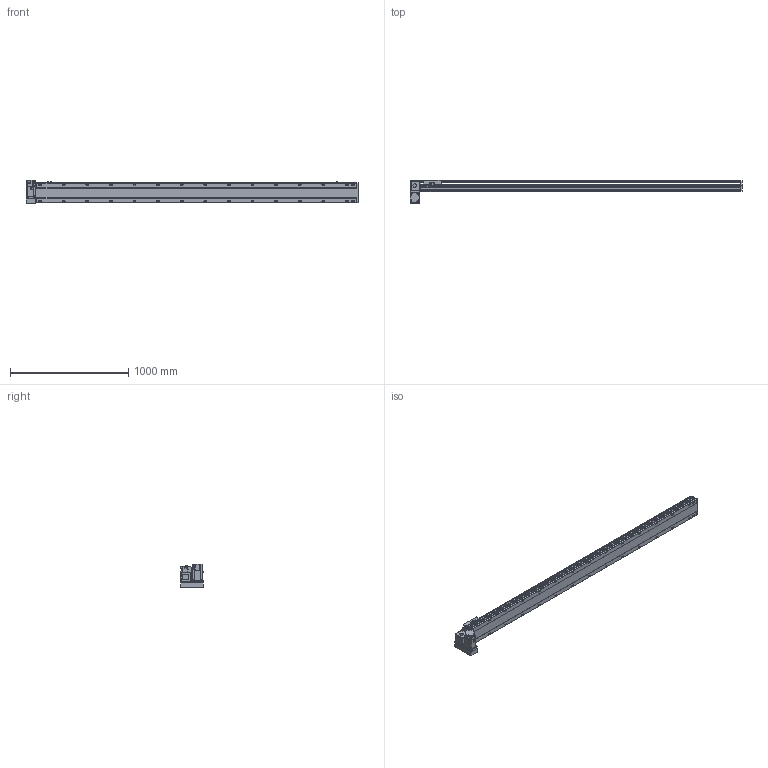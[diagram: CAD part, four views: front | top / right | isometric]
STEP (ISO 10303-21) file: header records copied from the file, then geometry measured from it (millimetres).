
FILE_DESCRIPTION(/* description */ ('STEP AP214'),/* implementation_level */ '2;1');
FILE_NAME(/* name */ 'PBS170-P40-S2450-LD-T75-C1-N(0)',/* time_stamp */ '2022-06-07T09:56:11+02:00',/* author */ ('License CC BY-ND 4.0'),/* organization */ ('CADENAS'),/* preprocessor_version */ 'ST-DEVELOPER v18.102',/* originating_system */ 'PARTsolutions',/* authorisation */ ' ');
FILE_SCHEMA (('AUTOMOTIVE_DESIGN {1 0 10303 214 3 1 1}'));
Length unit declared in the file: millimetre
Products named in the file (7): PBS170-P40-S2450-LD-T75-C1-N(0); PBS170_sensor; PBS170_plant; PBS170_sliser; T75-p1; PBS170T-LD_motors; PBS170-S2450()_body
Assembly tree (8 placements, depth 2):
  PBS170-P40-S2450-LD-T75-C1-N(0)
    PBS170_sensor  x3
    PBS170_plant
    PBS170_sliser
    T75-p1
    PBS170T-LD_motors
    PBS170-S2450()_body
Bounding box: 2813 x 201 x 197.3 mm (x, y, z)
Volume: 21319366 mm3; surface area: 2687759.7 mm2
Topology: 8 solids, 8 shells, 1194 faces, 3155 edges, 2056 vertices
Faces by surface type: plane 729, cylinder 395, cone 60, sphere 8, torus 2
Full cylindrical faces by diameter (mm): 3.242 x4, 4 x2, 4.4 x4, 4.5 x6, 4.917 x4, 6 x9, 6.647 x38, 7 x2, 7.5 x4, 8 x8, 8.5 x30, 10 x4, 10.5 x30, 11 x2, 30 x2, 40 x1, 70 x1
Entity records: 34324 total; most frequent: CARTESIAN_POINT 6497, DIRECTION 5790, ORIENTED_EDGE 5448, EDGE_CURVE 2724, AXIS2_PLACEMENT_3D 2047, VERTEX_POINT 1898, LINE 1696, VECTOR 1696
